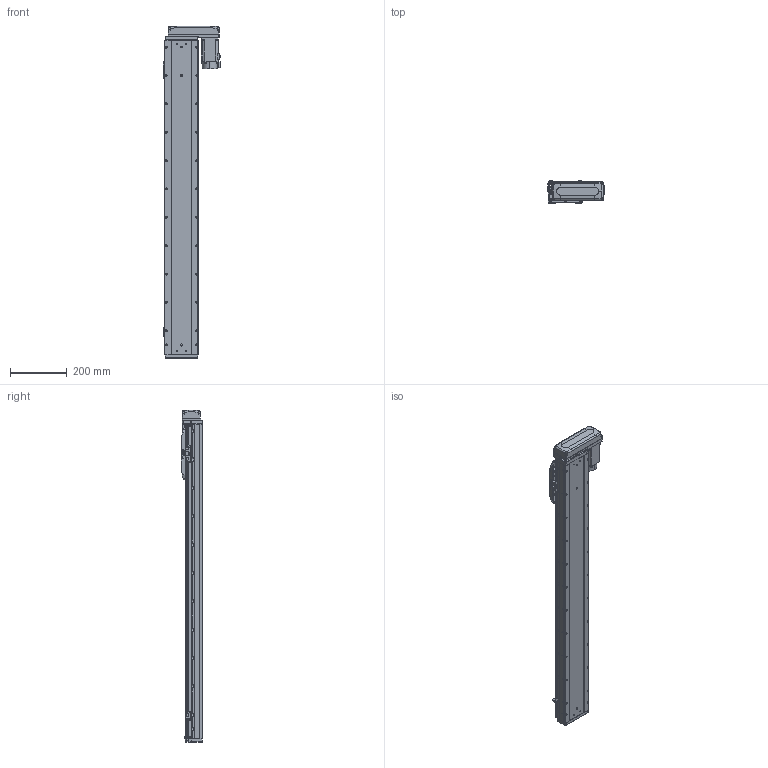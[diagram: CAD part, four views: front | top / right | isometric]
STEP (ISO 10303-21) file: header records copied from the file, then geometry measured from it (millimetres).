
FILE_DESCRIPTION (( 'STEP AP203' ), '1' );
FILE_NAME ('GTH12-900-BL-M40-C4.step', '2025-07-16T03:42:30', ( '' ), ( '' ), 'SwSTEP 2.0', 'SolidWorks 2023', '' );
FILE_SCHEMA (( 'CONFIG_CONTROL_DESIGN' ));
Length unit declared in the file: millimetre
Products named in the file (17): GTH120-003; GBT 70.3-M3×8; CTHA86-033_M40B; BTH-M3X5X6; GTH120-004; GTH80-022; hg-kn43j_-s100_; GTH120-006; GBT 70.1-M5×16; GTH120-013; 感应器总成左; GBT 70.1-M3×6; GTH80-028; 感应器总成右; GTH120-027-1_GTH120-027-2; GTH12-900-BL-M40-C4; GTH120-001_900
Assembly tree (38 placements, depth 2):
  GTH12-900-BL-M40-C4
    GTH120-001_900
    GTH120-003
    GTH120-006
    GTH120-004
    GTH120-013
    GBT 70.1-M3×6  x2
    GBT 70.1-M5×16  x10
    GBT 70.3-M3×8  x4
    GTH80-022
    GTH80-028  x2
    BTH-M3X5X6  x8
    hg-kn43j_-s100_
    CTHA86-033_M40B
    GTH120-027-1_GTH120-027-2
    感应器总成右  x2
    感应器总成左
Bounding box: 203.5 x 76 x 1170.5 mm (x, y, z)
Volume: 8481959 mm3; surface area: 742824.2 mm2
Topology: 55 solids, 55 shells, 2474 faces, 5833 edges, 3595 vertices
Faces by surface type: plane 1252, cylinder 730, cone 316, torus 162, sphere 8, bspline 6
Entity records: 54935 total; most frequent: CARTESIAN_POINT 9400, DIRECTION 9324, ORIENTED_EDGE 8658, EDGE_CURVE 4329, AXIS2_PLACEMENT_3D 3252, LINE 2820, VECTOR 2820, VERTEX_POINT 2728
